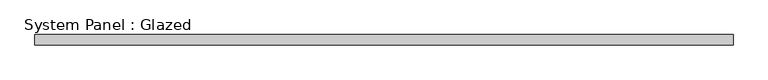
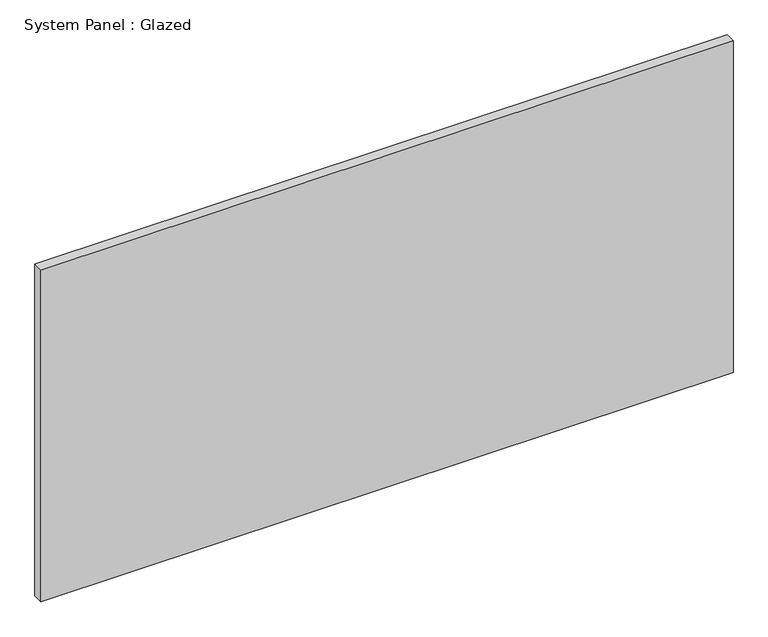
"""IFC4 building model written with IfcOpenShell, lengths in millimetres: plate geometry, System Panel : Glazed."""

import ifcopenshell
import ifcopenshell.guid

model = None  # the IFC model being written
_history = None  # IfcOwnerHistory: only IFC2X3 demands one
_inside = {}  # id of a spatial element -> (the spatial element, [elements in it])
_under = {}  # id of a project, library or spatial element -> (it, [spatial elements below it])
_declared = {}  # id of a project -> (the project, [libraries it declares])
_typed = {}  # id of a type object -> (the type object, [elements of that type])
_made_of = {}  # id of a material, layer set ... -> (it, [elements and type objects made of it])


def new_model(schema):
    """Start an empty IFC model of exactly this schema.

    Asked for "IFC4X3", IfcOpenShell would pick the latest addendum, in which some entities
    have other attributes; the version numbers below select the first issue.
    IFC2X3 requires an IfcOwnerHistory on every rooted entity: one is made here for all.
    """
    global model, _history
    if schema == "IFC4X3":
        model = ifcopenshell.file(schema_version=(4, 3, 0, 0))
    else:
        model = ifcopenshell.file(schema=schema)
    _inside.clear()
    _under.clear()
    _declared.clear()
    _typed.clear()
    _made_of.clear()
    _history = None
    if model.schema == "IFC2X3":
        org = make("IfcOrganization", Name="unknown")
        user = make(
            "IfcPersonAndOrganization",
            ThePerson=make("IfcPerson", FamilyName="unknown"),
            TheOrganization=org,
        )
        app = make(
            "IfcApplication",
            ApplicationDeveloper=org,
            Version="unknown",
            ApplicationFullName="unknown",
            ApplicationIdentifier="unknown",
        )
        _history = make(
            "IfcOwnerHistory",
            OwningUser=user,
            OwningApplication=app,
            ChangeAction="ADDED",
            CreationDate=0,
        )
    return model


def make(cls, **values):
    """One entity of the class cls with the attributes given. An attribute that is None is left unset."""
    return model.create_entity(
        cls, **{name: value for name, value in values.items() if value is not None}
    )


def rooted(cls, **values):
    """An entity with a GlobalId (a new one), such as an element, a storey or a relation."""
    return make(cls, GlobalId=ifcopenshell.guid.new(), OwnerHistory=_history, **values)


def si_unit(unit_type, name, prefix=None):
    """IfcSIUnit, for example si_unit("LENGTHUNIT", "METRE", prefix="MILLI")."""
    return make("IfcSIUnit", UnitType=unit_type, Prefix=prefix, Name=name)


def assignment(units):
    """IfcUnitAssignment: the units of a project."""
    return None if units is None else make("IfcUnitAssignment", Units=units)


def point(xyz):
    """IfcCartesianPoint."""
    return None if xyz is None else make("IfcCartesianPoint", Coordinates=xyz)


def direction(xyz):
    """IfcDirection."""
    return None if xyz is None else make("IfcDirection", DirectionRatios=xyz)


def frame(location, z_axis=None, x_axis=None):
    """IfcAxis2Placement3D, a coordinate frame: its origin and axes. An axis left out is left unset."""
    return make(
        "IfcAxis2Placement3D",
        Location=point(location),
        Axis=direction(z_axis),
        RefDirection=direction(x_axis),
    )


def origin():
    """The frame at (0, 0, 0) with its axes left unset."""
    return frame((0.0, 0.0, 0.0))


def origin_with_axes():
    """The frame at (0, 0, 0) with the z axis (0, 0, 1) and the x axis (1, 0, 0) written out."""
    return frame((0.0, 0.0, 0.0), z_axis=(0.0, 0.0, 1.0), x_axis=(1.0, 0.0, 0.0))


def place(relative_to, where):
    """IfcLocalPlacement: puts the frame where relative to a parent placement (None: the world)."""
    return make(
        "IfcLocalPlacement", PlacementRelTo=relative_to, RelativePlacement=where
    )


def context(
    kind, dimensions, precision=None, world=None, true_north=None, identifier=None
):
    """IfcGeometricRepresentationContext, for example the 3D "Model" context."""
    return make(
        "IfcGeometricRepresentationContext",
        ContextIdentifier=identifier,
        ContextType=kind,
        CoordinateSpaceDimension=dimensions,
        Precision=precision,
        WorldCoordinateSystem=world,
        TrueNorth=true_north,
    )


def project(units=None, contexts=None):
    """IfcProject with its units and contexts."""
    return rooted(
        "IfcProject",
        Name="project",
        RepresentationContexts=contexts,
        UnitsInContext=assignment(units),
    )


def spatial(cls, under=None, at=None, **own):
    """A site, building, storey or space (cls), placed at a placement, below another one or the project."""
    s = rooted(cls, ObjectPlacement=at, **own)
    if under is not None:
        _under.setdefault(under.id(), (under, []))[1].append(s)
    return s


def polyline(points):
    """IfcPolyline through the points."""
    return make("IfcPolyline", Points=[point(p) for p in points])


def outline(outer, holes=None, kind="AREA"):
    """IfcArbitraryClosedProfileDef: a profile drawn as a closed curve; with holes, ...WithVoids."""
    if holes is None:
        return make("IfcArbitraryClosedProfileDef", ProfileType=kind, OuterCurve=outer)
    return make(
        "IfcArbitraryProfileDefWithVoids",
        ProfileType=kind,
        OuterCurve=outer,
        InnerCurves=holes,
    )


def extrude(swept, where, along, depth):
    """IfcExtrudedAreaSolid: the profile swept, set in the frame where, extruded along a direction by depth."""
    return make(
        "IfcExtrudedAreaSolid",
        SweptArea=swept,
        Position=where,
        ExtrudedDirection=direction(along),
        Depth=depth,
    )


def shape(context_of_items, identifier, shape_type, items):
    """IfcShapeRepresentation: the items that make up one representation, for example the "Body"."""
    return make(
        "IfcShapeRepresentation",
        ContextOfItems=context_of_items,
        RepresentationIdentifier=identifier,
        RepresentationType=shape_type,
        Items=items,
    )


def source(mapping_origin, context_of_items, identifier, shape_type, items):
    """IfcRepresentationMap: a shape defined once, which mapped items show again and again."""
    return make(
        "IfcRepresentationMap",
        MappingOrigin=mapping_origin,
        MappedRepresentation=shape(context_of_items, identifier, shape_type, items),
    )


def transform(
    local_origin,
    x_axis=None,
    y_axis=None,
    z_axis=None,
    scale=None,
    scale2=None,
    scale3=None,
    uniform=True,
):
    """IfcCartesianTransformationOperator3D, or its non-uniform kind. x_axis, y_axis, z_axis: its Axis1, 2, 3."""
    if uniform:
        return make(
            "IfcCartesianTransformationOperator3D",
            Axis1=direction(x_axis),
            Axis2=direction(y_axis),
            LocalOrigin=point(local_origin),
            Scale=scale,
            Axis3=direction(z_axis),
        )
    return make(
        "IfcCartesianTransformationOperator3DnonUniform",
        Axis1=direction(x_axis),
        Axis2=direction(y_axis),
        LocalOrigin=point(local_origin),
        Scale=scale,
        Axis3=direction(z_axis),
        Scale2=scale2,
        Scale3=scale3,
    )


def mapped(mapping_source, mapping_target):
    """IfcMappedItem: shows the shape of a source again, moved by a transform."""
    return make(
        "IfcMappedItem", MappingSource=mapping_source, MappingTarget=mapping_target
    )


def made_of(thing, what):
    """Note that an element or type object is made of a material, layer set ...; save() writes the relation."""
    if what is not None:
        _made_of.setdefault(what.id(), (what, []))[1].append(thing)
    return thing


def element(
    cls,
    number,
    at=None,
    inside=None,
    cuts=None,
    type_object=None,
    material=None,
    context=None,
    identifier="Body",
    shape_type=None,
    held_by="IfcProductDefinitionShape",
    body=None,
    shapes=None,
    **own,
):
    """One element of the class cls, such as IfcWall. Its Tag is "e" and its number.

    at: its placement. inside: the storey or other place that contains it. cuts: it is an
    opening in that element (IfcRelVoidsElement). A single representation is given by context,
    identifier, shape_type and body (its items); several are given by shapes. held_by: the class
    of the entity that holds the representations. save() writes the other relations.
    """
    e = rooted(cls, Tag="e%d" % number, ObjectPlacement=at, **own)
    if body is not None:
        shapes = [shape(context, identifier, shape_type, body)]
    if shapes is not None:
        e.Representation = make(held_by, Representations=shapes)
    if inside is not None:
        _inside.setdefault(inside.id(), (inside, []))[1].append(e)
    if cuts is not None:
        rooted(
            "IfcRelVoidsElement", RelatingBuildingElement=cuts, RelatedOpeningElement=e
        )
    if type_object is not None:
        _typed.setdefault(type_object.id(), (type_object, []))[1].append(e)
    return made_of(e, material)


def aggregate(whole, parts):
    """IfcRelAggregates: a whole, such as a stair, and the parts it consists of."""
    return rooted("IfcRelAggregates", RelatingObject=whole, RelatedObjects=parts)


def save(model, path):
    """Write the relations noted so far, then the file.

    IfcRelAggregates (storeys below a building ...), IfcRelContainedInSpatialStructure (elements
    in a storey), IfcRelDefinesByType, IfcRelAssociatesMaterial and IfcRelDeclares: one each for
    every whole, place, type object, material and project.
    """
    for whole, parts in _under.values():
        aggregate(whole, parts)
    for where, things in _inside.values():
        rooted(
            "IfcRelContainedInSpatialStructure",
            RelatedElements=things,
            RelatingStructure=where,
        )
    for kind, things in _typed.values():
        rooted("IfcRelDefinesByType", RelatedObjects=things, RelatingType=kind)
    for what, things in _made_of.values():
        rooted("IfcRelAssociatesMaterial", RelatedObjects=things, RelatingMaterial=what)
    for by, libraries in _declared.values():
        rooted("IfcRelDeclares", RelatingContext=by, RelatedDefinitions=libraries)
    model.write(path)


def system_panel_glazed_de2e3ea7(model_context):
    return source(origin(), model_context, "Body", "SweptSolid", [
        extrude(outline(polyline([(857.1642504, 19.05), (-857.1642504, 19.05), (-857.1642504, 44.45), (857.1642504, 44.45), (857.1642504, 19.05)])), origin_with_axes(), (0.0, 0.0, 1.0), 869.5973025),
    ])


if __name__ == "__main__":
    model = new_model("IFC4")
    model_context = context("Model", 3, world=origin())
    ifc_project = project(units=[si_unit("LENGTHUNIT", "METRE", prefix="MILLI")], contexts=[model_context])
    site = spatial("IfcSite", under=ifc_project)
    building = spatial("IfcBuilding", under=site)
    placement = place(None, origin())
    system_panel_glazed_shape = system_panel_glazed_de2e3ea7(model_context)
    element("IfcPlate", 1, ObjectType="System Panel : Glazed", at=placement, inside=building, context=model_context, shape_type="MappedRepresentation", body=[
        mapped(system_panel_glazed_shape, transform((0.0, 0.0, 0.0), x_axis=(1.0, 0.0, 0.0), y_axis=(0.0, 1.0, 0.0), z_axis=(0.0, 0.0, 1.0))),
    ])
    save(model, "model.ifc")
